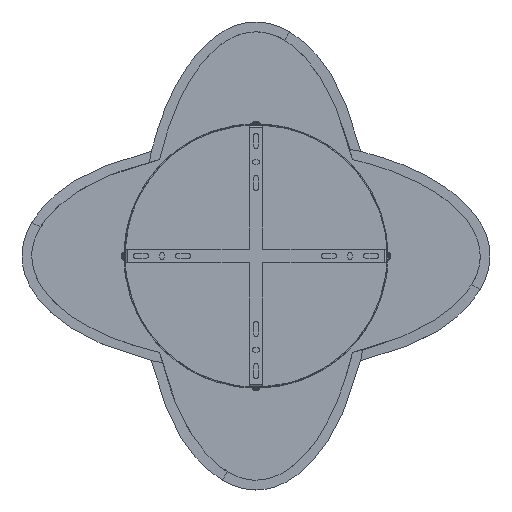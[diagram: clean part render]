
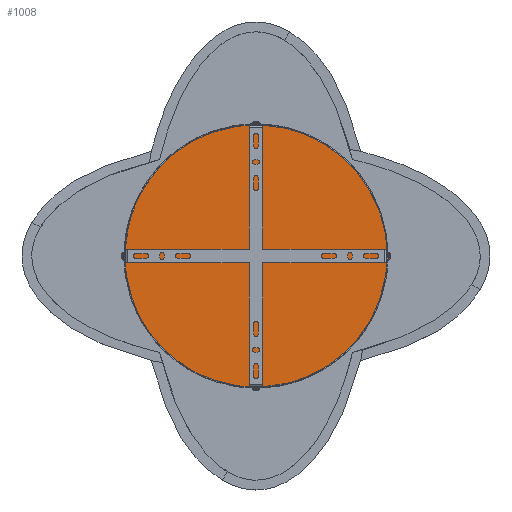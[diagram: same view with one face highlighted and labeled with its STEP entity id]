
A CAD part, top view. The second image highlights one B-rep face of the part: STEP entity #1008.
In plain terms, the highlighted planar face has unit normal (0, 0, 1).
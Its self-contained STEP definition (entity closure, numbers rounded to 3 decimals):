
#1008=ADVANCED_FACE('',(#1549),#1393,.F.);
#1393=PLANE('',#6856);
#1549=FACE_OUTER_BOUND('',#1907,.T.);
#1907=EDGE_LOOP('',(#2643));
#2355=CIRCLE('',#6853,174.);
#2643=ORIENTED_EDGE('',*,*,#5243,.F.);
#4585=VERTEX_POINT('',#9904);
#5243=EDGE_CURVE('',#4585,#4585,#2355,.T.);
#6853=AXIS2_PLACEMENT_3D('',#9903,#7363,#7364);
#6856=AXIS2_PLACEMENT_3D('',#9909,#7371,#7372);
#7363=DIRECTION('',(0.,0.,-1.));
#7364=DIRECTION('',(-1.,0.,0.));
#7371=DIRECTION('',(0.,0.,-1.));
#7372=DIRECTION('',(-1.,0.,0.));
#9903=CARTESIAN_POINT('',(3067.619,1778.45,1.));
#9904=CARTESIAN_POINT('',(2893.619,1778.45,1.));
#9909=CARTESIAN_POINT('',(3067.617,2075.451,1.));
